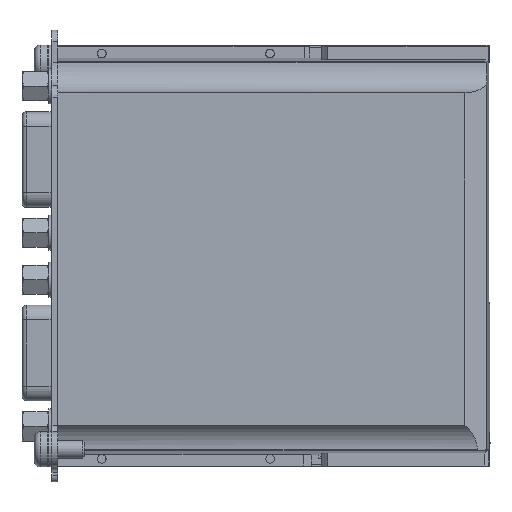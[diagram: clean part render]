
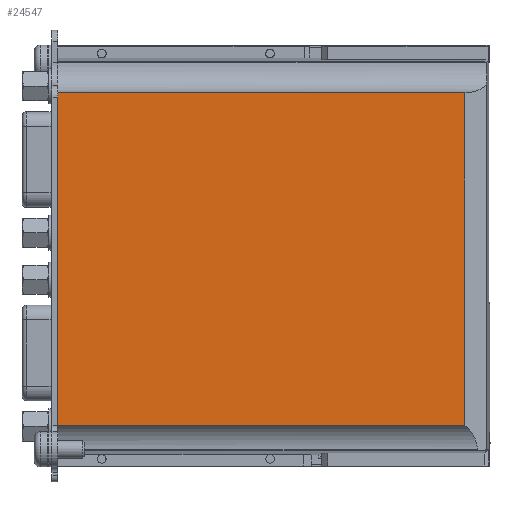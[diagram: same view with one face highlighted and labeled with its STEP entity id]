
A CAD part, top view. The second image highlights one B-rep face of the part: STEP entity #24547.
In plain terms, the highlighted planar face has unit normal (0, 0, 1).
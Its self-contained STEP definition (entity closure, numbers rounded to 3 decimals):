
#2489=FACE_OUTER_BOUND('',#3882,.T.);
#3882=EDGE_LOOP('',(#20709,#20710,#20711,#20712));
#5019=LINE('',#33637,#7193);
#6513=LINE('',#77571,#8687);
#6523=LINE('',#77592,#8697);
#6524=LINE('',#77594,#8698);
#7193=VECTOR('',#27371,10.);
#8687=VECTOR('',#31021,10.);
#8697=VECTOR('',#31043,10.);
#8698=VECTOR('',#31046,10.);
#9559=VERTEX_POINT('',#33634);
#9560=VERTEX_POINT('',#33636);
#11080=VERTEX_POINT('',#77568);
#11086=VERTEX_POINT('',#77589);
#11993=EDGE_CURVE('',#9560,#9559,#5019,.T.);
#14417=EDGE_CURVE('',#9559,#11080,#6513,.T.);
#14429=EDGE_CURVE('',#9560,#11086,#6523,.T.);
#14430=EDGE_CURVE('',#11086,#11080,#6524,.T.);
#20709=ORIENTED_EDGE('',*,*,#14430,.F.);
#20710=ORIENTED_EDGE('',*,*,#14429,.F.);
#20711=ORIENTED_EDGE('',*,*,#11993,.T.);
#20712=ORIENTED_EDGE('',*,*,#14417,.T.);
#22573=PLANE('',#26155);
#24547=ADVANCED_FACE('',(#2489),#22573,.T.);
#26155=AXIS2_PLACEMENT_3D('',#77593,#31044,#31045);
#27371=DIRECTION('',(0.,-1.,0.));
#31021=DIRECTION('',(1.,0.,0.));
#31043=DIRECTION('',(1.,0.,0.));
#31044=DIRECTION('center_axis',(0.,0.,
1.));
#31045=DIRECTION('ref_axis',(1.,0.,0.));
#31046=DIRECTION('',(0.,-1.,0.));
#33634=CARTESIAN_POINT('',(-11.4,3.289,18.7));
#33636=CARTESIAN_POINT('',(-11.4,60.065,18.7));
#33637=CARTESIAN_POINT('',(-11.4,60.065,18.7));
#77568=CARTESIAN_POINT('',(58.027,3.289,18.7));
#77571=CARTESIAN_POINT('',(-11.4,3.289,18.7));
#77589=CARTESIAN_POINT('',(58.027,60.065,18.7));
#77592=CARTESIAN_POINT('',(-11.4,60.065,18.7));
#77593=CARTESIAN_POINT('Origin',(-11.4,3.289,18.7));
#77594=CARTESIAN_POINT('',(58.027,17.816,18.7));
